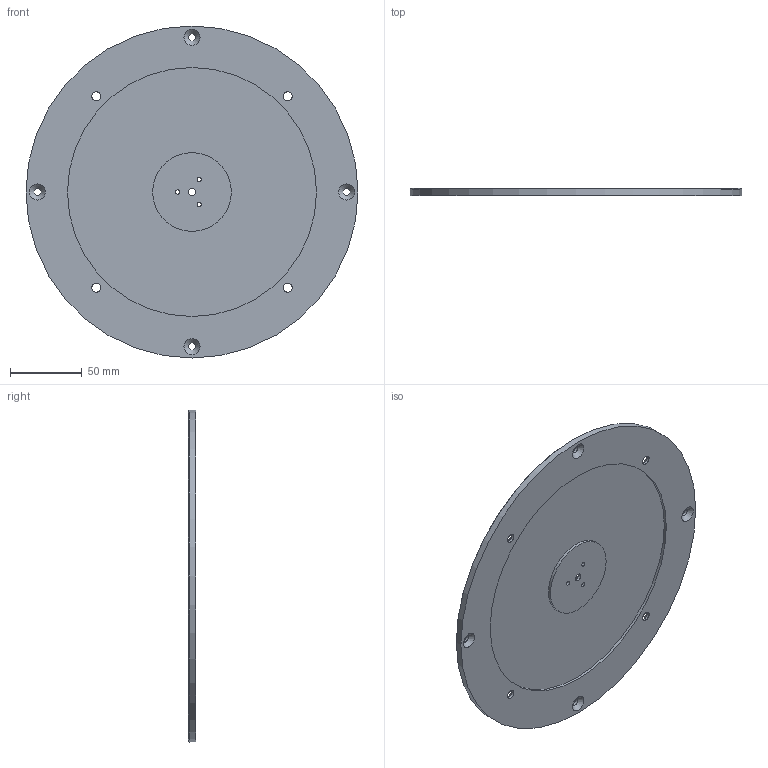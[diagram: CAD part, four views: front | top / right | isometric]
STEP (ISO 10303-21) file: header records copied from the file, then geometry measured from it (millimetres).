
FILE_DESCRIPTION(/* description */ (''),/* implementation_level */ '2;1');
FILE_NAME(/* name */ 'turntable-final.step',/* time_stamp */ '2025-06-23T21:48:18-04:00',/* author */ (''),/* organization */ (''),/* preprocessor_version */ 'ST-DEVELOPER v20.1',/* originating_system */ 'Autodesk Translation Framework v14.10.0.0',/* authorisation */ '');
FILE_SCHEMA (('AUTOMOTIVE_DESIGN { 1 0 10303 214 3 1 1 }'));
Length unit declared in the file: millimetre
Products named in the file (1): turntable
Bounding box: 232 x 5 x 232 mm (x, y, z)
Volume: 166102.1 mm3; surface area: 89663.6 mm2
Topology: 1 solids, 1 shells, 32 faces, 71 edges, 43 vertices
Faces by surface type: cylinder 15, cone 13, plane 4
Full cylindrical faces by diameter (mm): 3 x3, 5.2 x5, 6.2 x4, 55 x1, 174 x1, 232 x1
Entity records: 982 total; most frequent: DIRECTION 180, CARTESIAN_POINT 147, ORIENTED_EDGE 142, AXIS2_PLACEMENT_3D 76, EDGE_CURVE 71, EDGE_LOOP 58, CIRCLE 43, VERTEX_POINT 43
